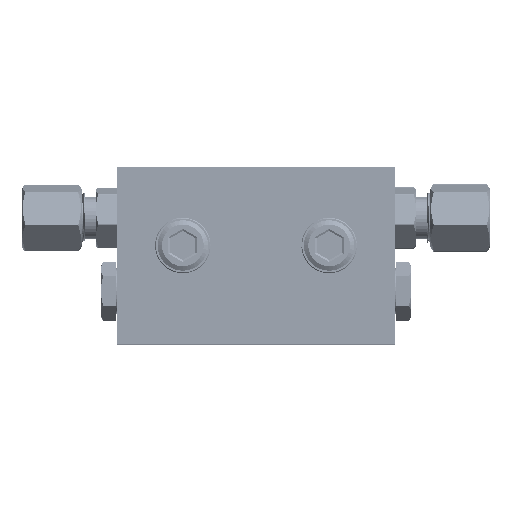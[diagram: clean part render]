
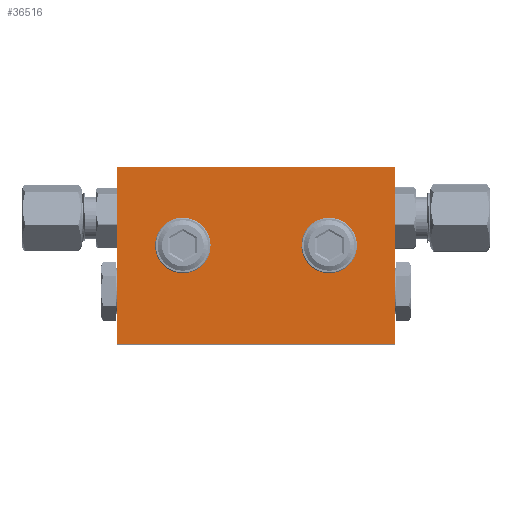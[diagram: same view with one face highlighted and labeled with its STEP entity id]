
A CAD part, top view. The second image highlights one B-rep face of the part: STEP entity #36516.
In plain terms, the highlighted planar face has unit normal (0, 0, 1) as drawn and (0, 0, -1) by its records, which use the part's own axes.
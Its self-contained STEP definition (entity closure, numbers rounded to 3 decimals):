
#1071 = CARTESIAN_POINT ( 'NONE',  ( -27.5, -35., -4.85 ) ) ;
#2322 = CARTESIAN_POINT ( 'NONE',  ( 27.5, 0., -4.85 ) ) ;
#3285 = VECTOR ( 'NONE', #32010, 1000. ) ;
#4545 = FACE_OUTER_BOUND ( 'NONE', #34763, .T. ) ;
#4820 = ORIENTED_EDGE ( 'NONE', *, *, #17692, .F. ) ;
#4983 = CARTESIAN_POINT ( 'NONE',  ( 0., 0., -4.85 ) ) ;
#5086 = ORIENTED_EDGE ( 'NONE', *, *, #20817, .F. ) ;
#5133 = LINE ( 'NONE', #28917, #16681 ) ;
#5178 = DIRECTION ( 'NONE',  ( 1., 0., 0. ) ) ;
#5364 = AXIS2_PLACEMENT_3D ( 'NONE', #4983, #18529, #15419 ) ;
#5475 = EDGE_LOOP ( 'NONE', ( #24810 ) ) ;
#7636 = VERTEX_POINT ( 'NONE', #32503 ) ;
#8284 = LINE ( 'NONE', #18450, #3285 ) ;
#8362 = PLANE ( 'NONE',  #5364 ) ;
#11635 = CARTESIAN_POINT ( 'NONE',  ( 11.4, -15.5, -4.85 ) ) ;
#11877 = LINE ( 'NONE', #22239, #20714 ) ;
#11972 = VERTEX_POINT ( 'NONE', #13956 ) ;
#12877 = CIRCLE ( 'NONE', #13564, 3.1 ) ;
#12890 = ORIENTED_EDGE ( 'NONE', *, *, #14197, .F. ) ;
#13013 = AXIS2_PLACEMENT_3D ( 'NONE', #28739, #19152, #5178 ) ;
#13192 = EDGE_CURVE ( 'NONE', #23969, #22617, #5133, .T. ) ;
#13564 = AXIS2_PLACEMENT_3D ( 'NONE', #33265, #29930, #24118 ) ;
#13956 = CARTESIAN_POINT ( 'NONE',  ( 27.5, 0., -4.85 ) ) ;
#14197 = EDGE_CURVE ( 'NONE', #11972, #23969, #8284, .T. ) ;
#14955 = VERTEX_POINT ( 'NONE', #11635 ) ;
#15419 = DIRECTION ( 'NONE',  ( 1., 0., 0. ) ) ;
#15586 = DIRECTION ( 'NONE',  ( 1., 0., 0. ) ) ;
#16681 = VECTOR ( 'NONE', #42439, 1000. ) ;
#17692 = EDGE_CURVE ( 'NONE', #7636, #11972, #33428, .T. ) ;
#18253 = CARTESIAN_POINT ( 'NONE',  ( -11.4, -15.5, -4.85 ) ) ;
#18450 = CARTESIAN_POINT ( 'NONE',  ( 0., 0., -4.85 ) ) ;
#18529 = DIRECTION ( 'NONE',  ( 0., 0., 1. ) ) ;
#19152 = DIRECTION ( 'NONE',  ( 0., 0., -1. ) ) ;
#20714 = VECTOR ( 'NONE', #15586, 1000. ) ;
#20817 = EDGE_CURVE ( 'NONE', #22617, #7636, #11877, .T. ) ;
#21363 = VERTEX_POINT ( 'NONE', #18253 ) ;
#21857 = FACE_BOUND ( 'NONE', #36884, .T. ) ;
#22239 = CARTESIAN_POINT ( 'NONE',  ( 0., -35., -4.85 ) ) ;
#22617 = VERTEX_POINT ( 'NONE', #1071 ) ;
#23969 = VERTEX_POINT ( 'NONE', #30064 ) ;
#24118 = DIRECTION ( 'NONE',  ( -1., 0., 0. ) ) ;
#24810 = ORIENTED_EDGE ( 'NONE', *, *, #43334, .F. ) ;
#28044 = ORIENTED_EDGE ( 'NONE', *, *, #34379, .F. ) ;
#28739 = CARTESIAN_POINT ( 'NONE',  ( -14.5, -15.5, -4.85 ) ) ;
#28917 = CARTESIAN_POINT ( 'NONE',  ( -27.5, 0., -4.85 ) ) ;
#29930 = DIRECTION ( 'NONE',  ( 0., 0., -1. ) ) ;
#30064 = CARTESIAN_POINT ( 'NONE',  ( -27.5, 0., -4.85 ) ) ;
#31444 = FACE_BOUND ( 'NONE', #5475, .T. ) ;
#32010 = DIRECTION ( 'NONE',  ( -1., 0., 0. ) ) ;
#32134 = CIRCLE ( 'NONE', #13013, 3.1 ) ;
#32503 = CARTESIAN_POINT ( 'NONE',  ( 27.5, -35., -4.85 ) ) ;
#32777 = DIRECTION ( 'NONE',  ( 0., 1., 0. ) ) ;
#33265 = CARTESIAN_POINT ( 'NONE',  ( 14.5, -15.5, -4.85 ) ) ;
#33428 = LINE ( 'NONE', #2322, #34416 ) ;
#34379 = EDGE_CURVE ( 'NONE', #21363, #21363, #32134, .T. ) ;
#34416 = VECTOR ( 'NONE', #32777, 1000. ) ;
#34763 = EDGE_LOOP ( 'NONE', ( #5086, #36681, #12890, #4820 ) ) ;
#36516 = ADVANCED_FACE ( 'NONE', ( #21857, #31444, #4545 ), #8362, .F. ) ;
#36681 = ORIENTED_EDGE ( 'NONE', *, *, #13192, .F. ) ;
#36884 = EDGE_LOOP ( 'NONE', ( #28044 ) ) ;
#42439 = DIRECTION ( 'NONE',  ( 0., -1., 0. ) ) ;
#43334 = EDGE_CURVE ( 'NONE', #14955, #14955, #12877, .T. ) ;
